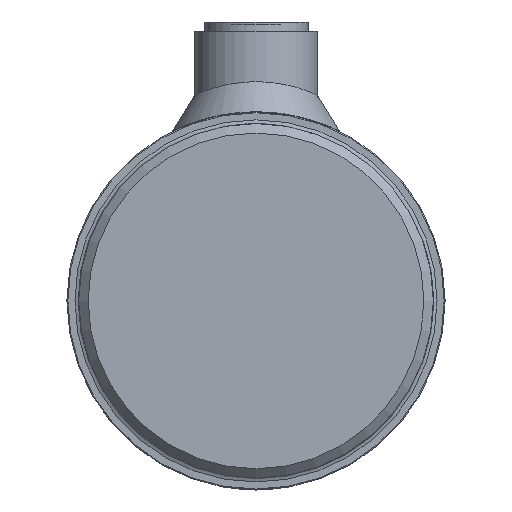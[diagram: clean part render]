
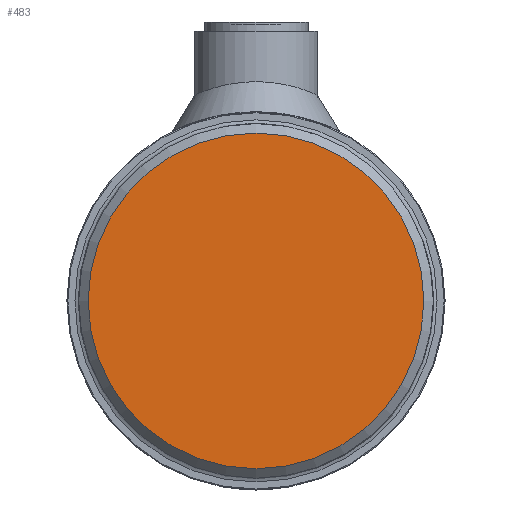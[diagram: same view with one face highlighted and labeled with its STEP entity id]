
A CAD part, left-side view. The second image highlights one B-rep face of the part: STEP entity #483.
In plain terms, the highlighted planar face has unit normal (-1, 0, 0).
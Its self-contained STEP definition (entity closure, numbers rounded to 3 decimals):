
#483 = ADVANCED_FACE( '', ( #912 ), #913, .T. );
#912 = FACE_OUTER_BOUND( '', #1614, .T. );
#913 = PLANE( '', #1615 );
#1614 = EDGE_LOOP( '', ( #2739 ) );
#1615 = AXIS2_PLACEMENT_3D( '', #2740, #2741, #2742 );
#2739 = ORIENTED_EDGE( '', *, *, #3217, .T. );
#2740 = CARTESIAN_POINT( '', ( -60., 0., 0. ) );
#2741 = DIRECTION( '', ( -1., 0., 0. ) );
#2742 = DIRECTION( '', ( 0., -1., 0. ) );
#3217 = EDGE_CURVE( '', #3560, #3560, #3561, .T. );
#3560 = VERTEX_POINT( '', #4915 );
#3561 = CIRCLE( '', #4916, 35.5 );
#4915 = CARTESIAN_POINT( '', ( -60., -35.5, 0. ) );
#4916 = AXIS2_PLACEMENT_3D( '', #5576, #5577, #5578 );
#5576 = CARTESIAN_POINT( '', ( -60., 0., 0. ) );
#5577 = DIRECTION( '', ( -1., 0., 0. ) );
#5578 = DIRECTION( '', ( 0., -1., 0. ) );
